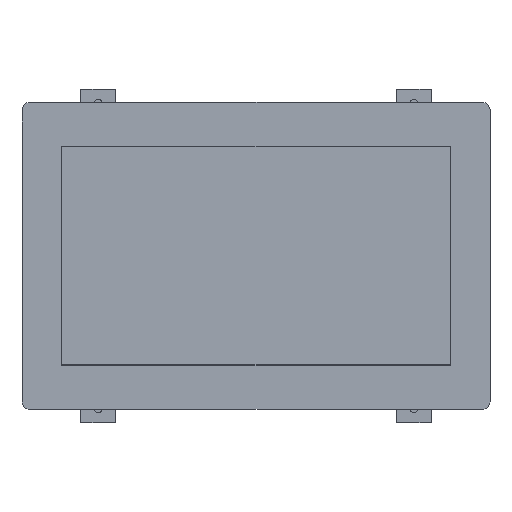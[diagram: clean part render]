
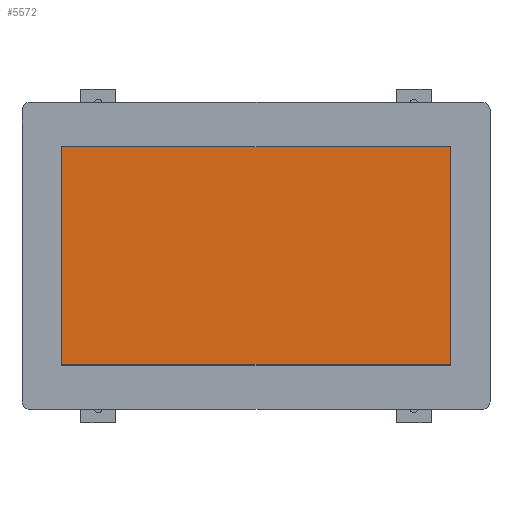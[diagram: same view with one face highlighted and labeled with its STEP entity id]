
A CAD part, top view. The second image highlights one B-rep face of the part: STEP entity #5572.
In plain terms, the highlighted planar face has unit normal (0, 0, 1).
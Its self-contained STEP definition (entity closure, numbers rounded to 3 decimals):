
#5363 = VERTEX_POINT ( 'NONE', #16819 ) ;
#5365 = VERTEX_POINT ( 'NONE', #16794 ) ;
#5465 = VERTEX_POINT ( 'NONE', #16956 ) ;
#5469 = EDGE_CURVE ( 'NONE', #5465, #5363, #17006, .T. ) ;
#5503 = EDGE_CURVE ( 'NONE', #5363, #5365, #17070, .T. ) ;
#5565 = EDGE_CURVE ( 'NONE', #5365, #5598, #17111, .T. ) ;
#5572 = ADVANCED_FACE ( 'NONE', ( #17154 ), #17146, .T. ) ;
#5576 = ORIENTED_EDGE ( 'NONE', *, *, #5565, .T. ) ;
#5582 = ORIENTED_EDGE ( 'NONE', *, *, #5594, .T. ) ;
#5594 = EDGE_CURVE ( 'NONE', #5598, #5465, #17190, .T. ) ;
#5596 = ORIENTED_EDGE ( 'NONE', *, *, #5469, .T. ) ;
#5598 = VERTEX_POINT ( 'NONE', #17192 ) ;
#5600 = EDGE_LOOP ( 'NONE', ( #5596, #5604, #5576, #5582 ) ) ;
#5604 = ORIENTED_EDGE ( 'NONE', *, *, #5503, .T. ) ;
#16794 = CARTESIAN_POINT ( 'NONE',  ( -77.15, -43.35, 0. ) ) ;
#16819 = CARTESIAN_POINT ( 'NONE',  ( -77.15, 43.35, 0. ) ) ;
#16956 = CARTESIAN_POINT ( 'NONE',  ( 77.15, 43.35, 0. ) ) ;
#17002 = DIRECTION ( 'NONE',  ( -1., 0., 0. ) ) ;
#17003 = VECTOR ( 'NONE', #17002, 1000. ) ;
#17004 = CARTESIAN_POINT ( 'NONE',  ( -77.15, 43.35, 0. ) ) ;
#17006 = LINE ( 'NONE', #17004, #17003 ) ;
#17057 = DIRECTION ( 'NONE',  ( 0., -1., 0. ) ) ;
#17058 = VECTOR ( 'NONE', #17057, 1000. ) ;
#17059 = CARTESIAN_POINT ( 'NONE',  ( -77.15, 43.35, 0. ) ) ;
#17070 = LINE ( 'NONE', #17059, #17058 ) ;
#17108 = VECTOR ( 'NONE', #17150, 1000. ) ;
#17110 = CARTESIAN_POINT ( 'NONE',  ( -77.15, -43.35, 0. ) ) ;
#17111 = LINE ( 'NONE', #17110, #17108 ) ;
#17112 = AXIS2_PLACEMENT_3D ( 'NONE', #17151, #17141, #17140 ) ;
#17140 = DIRECTION ( 'NONE',  ( 1., 0., 0. ) ) ;
#17141 = DIRECTION ( 'NONE',  ( 0., 0., 1. ) ) ;
#17146 = PLANE ( 'NONE',  #17112 ) ;
#17150 = DIRECTION ( 'NONE',  ( 1., 0., 0. ) ) ;
#17151 = CARTESIAN_POINT ( 'NONE',  ( -93., -61., 0. ) ) ;
#17154 = FACE_OUTER_BOUND ( 'NONE', #5600, .T. ) ;
#17176 = DIRECTION ( 'NONE',  ( 0., 1., 0. ) ) ;
#17177 = VECTOR ( 'NONE', #17176, 1000. ) ;
#17178 = CARTESIAN_POINT ( 'NONE',  ( 77.15, 43.35, 0. ) ) ;
#17190 = LINE ( 'NONE', #17178, #17177 ) ;
#17192 = CARTESIAN_POINT ( 'NONE',  ( 77.15, -43.35, 0. ) ) ;
